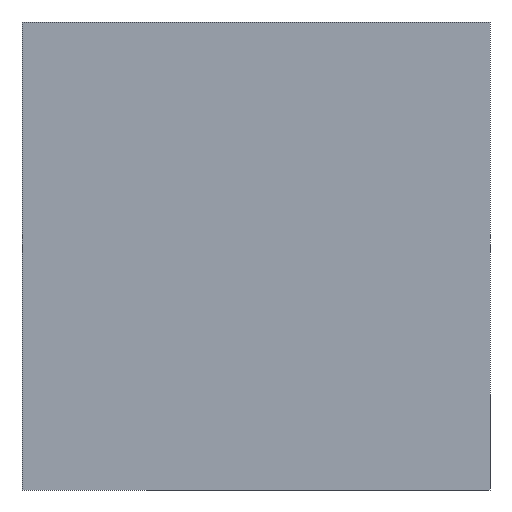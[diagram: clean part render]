
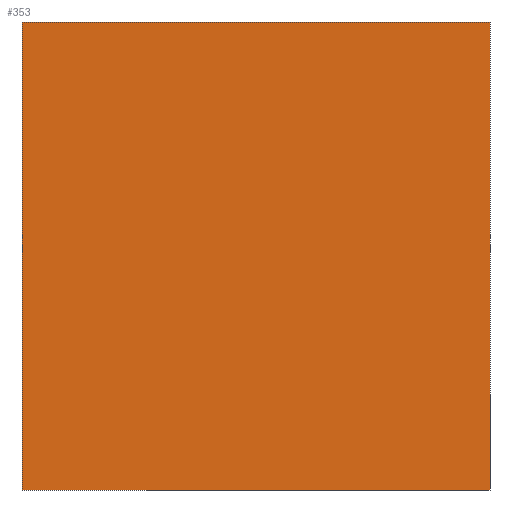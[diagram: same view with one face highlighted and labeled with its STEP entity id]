
A CAD part, front view. The second image highlights one B-rep face of the part: STEP entity #353.
In plain terms, the highlighted planar face has unit normal (0, -1, 0).
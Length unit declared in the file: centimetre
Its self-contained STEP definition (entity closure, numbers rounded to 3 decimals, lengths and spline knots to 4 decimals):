
#6 = EDGE_CURVE ( 'NONE', #352, #142, #373, .T. ) ;
#44 = CARTESIAN_POINT ( 'NONE',  ( 1000., 0., 1000. ) ) ;
#72 = DIRECTION ( 'NONE',  ( 0., 1., 0. ) ) ;
#79 = VECTOR ( 'NONE', #445, 100. ) ;
#95 = CARTESIAN_POINT ( 'NONE',  ( 0., 0., 1000. ) ) ;
#99 = VECTOR ( 'NONE', #280, 100. ) ;
#105 = LINE ( 'NONE', #304, #415 ) ;
#115 = ORIENTED_EDGE ( 'NONE', *, *, #388, .T. ) ;
#116 = CARTESIAN_POINT ( 'NONE',  ( 0., 0., 1000. ) ) ;
#135 = PLANE ( 'NONE',  #554 ) ;
#142 = VERTEX_POINT ( 'NONE', #188 ) ;
#188 = CARTESIAN_POINT ( 'NONE',  ( 1000., 0., 0. ) ) ;
#204 = DIRECTION ( 'NONE',  ( 1., 0., 0. ) ) ;
#219 = DIRECTION ( 'NONE',  ( 0., 0., 1. ) ) ;
#243 = ORIENTED_EDGE ( 'NONE', *, *, #524, .F. ) ;
#270 = ORIENTED_EDGE ( 'NONE', *, *, #6, .T. ) ;
#271 = DIRECTION ( 'NONE',  ( 0., 0., -1. ) ) ;
#280 = DIRECTION ( 'NONE',  ( 1., 0., 0. ) ) ;
#295 = CARTESIAN_POINT ( 'NONE',  ( 0., 0., 0. ) ) ;
#301 = EDGE_CURVE ( 'NONE', #531, #587, #105, .T. ) ;
#304 = CARTESIAN_POINT ( 'NONE',  ( 0., 0., 1000. ) ) ;
#313 = VECTOR ( 'NONE', #271, 100. ) ;
#330 = EDGE_LOOP ( 'NONE', ( #270, #243, #446, #115 ) ) ;
#334 = FACE_OUTER_BOUND ( 'NONE', #330, .T. ) ;
#345 = LINE ( 'NONE', #44, #79 ) ;
#352 = VERTEX_POINT ( 'NONE', #564 ) ;
#353 = ADVANCED_FACE ( 'NONE', ( #334 ), #135, .F. ) ;
#370 = CARTESIAN_POINT ( 'NONE',  ( 0., 0., 1000. ) ) ;
#373 = LINE ( 'NONE', #295, #99 ) ;
#388 = EDGE_CURVE ( 'NONE', #531, #352, #550, .T. ) ;
#415 = VECTOR ( 'NONE', #204, 100. ) ;
#445 = DIRECTION ( 'NONE',  ( 0., 0., -1. ) ) ;
#446 = ORIENTED_EDGE ( 'NONE', *, *, #301, .F. ) ;
#524 = EDGE_CURVE ( 'NONE', #587, #142, #345, .T. ) ;
#531 = VERTEX_POINT ( 'NONE', #95 ) ;
#541 = CARTESIAN_POINT ( 'NONE',  ( 1000., 0., 1000. ) ) ;
#550 = LINE ( 'NONE', #116, #313 ) ;
#554 = AXIS2_PLACEMENT_3D ( 'NONE', #370, #72, #219 ) ;
#564 = CARTESIAN_POINT ( 'NONE',  ( 0., 0., 0. ) ) ;
#587 = VERTEX_POINT ( 'NONE', #541 ) ;
